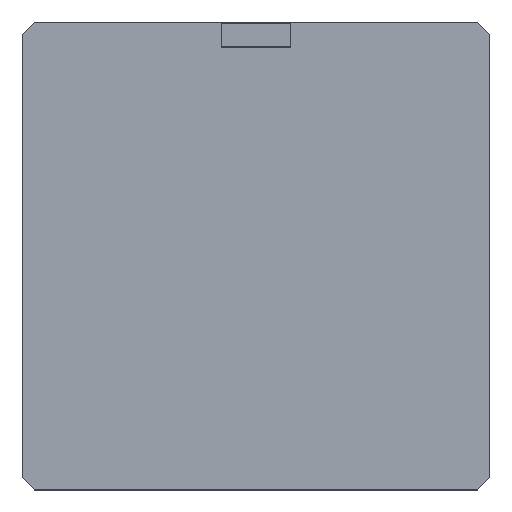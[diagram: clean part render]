
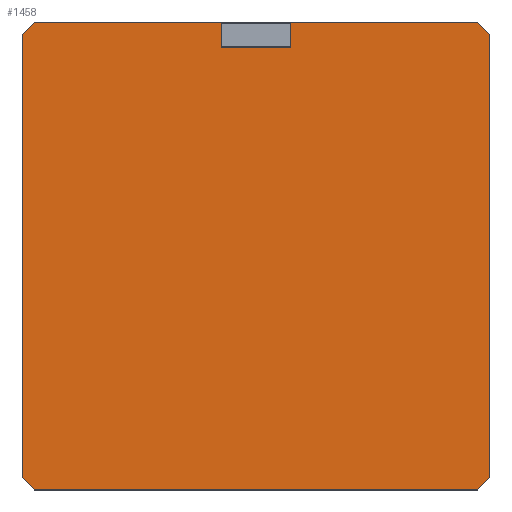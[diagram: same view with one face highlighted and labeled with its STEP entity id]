
A CAD part, top view. The second image highlights one B-rep face of the part: STEP entity #1458.
In plain terms, the highlighted planar face has unit normal (0, 0, 1).
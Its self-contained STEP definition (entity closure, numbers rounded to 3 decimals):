
#1458 = ADVANCED_FACE( '', ( #3329, #3330 ), #3331, .T. );
#3329 = FACE_BOUND( '', #5827, .T. );
#3330 = FACE_OUTER_BOUND( '', #5828, .T. );
#3331 = PLANE( '', #5829 );
#5827 = EDGE_LOOP( '', ( #10282, #10283, #10284, #10285 ) );
#5828 = EDGE_LOOP( '', ( #10286, #10287, #10288, #10289, #10290, #10291, #10292, #10293 ) );
#5829 = AXIS2_PLACEMENT_3D( '', #10294, #10295, #10296 );
#10282 = ORIENTED_EDGE( '', *, *, #15996, .F. );
#10283 = ORIENTED_EDGE( '', *, *, #15997, .T. );
#10284 = ORIENTED_EDGE( '', *, *, #15998, .T. );
#10285 = ORIENTED_EDGE( '', *, *, #15999, .T. );
#10286 = ORIENTED_EDGE( '', *, *, #16000, .T. );
#10287 = ORIENTED_EDGE( '', *, *, #16001, .T. );
#10288 = ORIENTED_EDGE( '', *, *, #16002, .T. );
#10289 = ORIENTED_EDGE( '', *, *, #15159, .T. );
#10290 = ORIENTED_EDGE( '', *, *, #15719, .T. );
#10291 = ORIENTED_EDGE( '', *, *, #16003, .T. );
#10292 = ORIENTED_EDGE( '', *, *, #15353, .T. );
#10293 = ORIENTED_EDGE( '', *, *, #15486, .T. );
#10294 = CARTESIAN_POINT( '', ( 0., 0., 6.7 ) );
#10295 = DIRECTION( '', ( 0., 0., 1. ) );
#10296 = DIRECTION( '', ( 1., 0., 0. ) );
#15159 = EDGE_CURVE( '', #18518, #18516, #18519, .T. );
#15353 = EDGE_CURVE( '', #18844, #18842, #18845, .T. );
#15486 = EDGE_CURVE( '', #18842, #19054, #19056, .T. );
#15719 = EDGE_CURVE( '', #18516, #19417, #19419, .T. );
#15996 = EDGE_CURVE( '', #19830, #19831, #19832, .T. );
#15997 = EDGE_CURVE( '', #19830, #19833, #19834, .T. );
#15998 = EDGE_CURVE( '', #19833, #19835, #19836, .T. );
#15999 = EDGE_CURVE( '', #19835, #19831, #19837, .T. );
#16000 = EDGE_CURVE( '', #19054, #19838, #19839, .T. );
#16001 = EDGE_CURVE( '', #19838, #19840, #19841, .T. );
#16002 = EDGE_CURVE( '', #19840, #18518, #19842, .T. );
#16003 = EDGE_CURVE( '', #19417, #18844, #19843, .T. );
#18516 = VERTEX_POINT( '', #23092 );
#18518 = VERTEX_POINT( '', #23095 );
#18519 = LINE( '', #23096, #23097 );
#18842 = VERTEX_POINT( '', #23592 );
#18844 = VERTEX_POINT( '', #23595 );
#18845 = LINE( '', #23596, #23597 );
#19054 = VERTEX_POINT( '', #23897 );
#19056 = LINE( '', #23900, #23901 );
#19417 = VERTEX_POINT( '', #24425 );
#19419 = LINE( '', #24428, #24429 );
#19830 = VERTEX_POINT( '', #25004 );
#19831 = VERTEX_POINT( '', #25005 );
#19832 = LINE( '', #25006, #25007 );
#19833 = VERTEX_POINT( '', #25008 );
#19834 = LINE( '', #25009, #25010 );
#19835 = VERTEX_POINT( '', #25011 );
#19836 = LINE( '', #25012, #25013 );
#19837 = LINE( '', #25014, #25015 );
#19838 = VERTEX_POINT( '', #25016 );
#19839 = LINE( '', #25017, #25018 );
#19840 = VERTEX_POINT( '', #25019 );
#19841 = LINE( '', #25020, #25021 );
#19842 = LINE( '', #25022, #25023 );
#19843 = LINE( '', #25024, #25025 );
#23092 = CARTESIAN_POINT( '', ( 126., -119.5, 6.7 ) );
#23095 = CARTESIAN_POINT( '', ( 119.5, -126., 6.7 ) );
#23096 = CARTESIAN_POINT( '', ( 119.5, -126., 6.7 ) );
#23097 = VECTOR( '', #27902, 1000. );
#23592 = CARTESIAN_POINT( '', ( -119.5, 126., 6.7 ) );
#23595 = CARTESIAN_POINT( '', ( 119.5, 126., 6.7 ) );
#23596 = CARTESIAN_POINT( '', ( 119.5, 126., 6.7 ) );
#23597 = VECTOR( '', #28096, 1000. );
#23897 = CARTESIAN_POINT( '', ( -126., 119.5, 6.7 ) );
#23900 = CARTESIAN_POINT( '', ( -119.5, 126., 6.7 ) );
#23901 = VECTOR( '', #28234, 1000. );
#24425 = CARTESIAN_POINT( '', ( 126., 119.5, 6.7 ) );
#24428 = CARTESIAN_POINT( '', ( 126., -119.5, 6.7 ) );
#24429 = VECTOR( '', #28495, 1000. );
#25004 = CARTESIAN_POINT( '', ( 18.683, 112.1, 6.7 ) );
#25005 = CARTESIAN_POINT( '', ( 18.683, 125.9, 6.7 ) );
#25006 = CARTESIAN_POINT( '', ( 18.683, 0., 6.7 ) );
#25007 = VECTOR( '', #28795, 1000. );
#25008 = CARTESIAN_POINT( '', ( -18.683, 112.1, 6.7 ) );
#25009 = CARTESIAN_POINT( '', ( 0., 112.1, 6.7 ) );
#25010 = VECTOR( '', #28796, 1000. );
#25011 = CARTESIAN_POINT( '', ( -18.683, 125.9, 6.7 ) );
#25012 = CARTESIAN_POINT( '', ( -18.683, 0., 6.7 ) );
#25013 = VECTOR( '', #28797, 1000. );
#25014 = CARTESIAN_POINT( '', ( 0., 125.9, 6.7 ) );
#25015 = VECTOR( '', #28798, 1000. );
#25016 = CARTESIAN_POINT( '', ( -126., -119.5, 6.7 ) );
#25017 = CARTESIAN_POINT( '', ( -126., 119.5, 6.7 ) );
#25018 = VECTOR( '', #28799, 1000. );
#25019 = CARTESIAN_POINT( '', ( -119.5, -126., 6.7 ) );
#25020 = CARTESIAN_POINT( '', ( -126., -119.5, 6.7 ) );
#25021 = VECTOR( '', #28800, 1000. );
#25022 = CARTESIAN_POINT( '', ( -119.5, -126., 6.7 ) );
#25023 = VECTOR( '', #28801, 1000. );
#25024 = CARTESIAN_POINT( '', ( 126., 119.5, 6.7 ) );
#25025 = VECTOR( '', #28802, 1000. );
#27902 = DIRECTION( '', ( 0.707, 0.707, 0. ) );
#28096 = DIRECTION( '', ( -1., 0., 0. ) );
#28234 = DIRECTION( '', ( -0.707, -0.707, 0. ) );
#28495 = DIRECTION( '', ( 0., 1., 0. ) );
#28795 = DIRECTION( '', ( 0., 1., 0. ) );
#28796 = DIRECTION( '', ( -1., 0., 0. ) );
#28797 = DIRECTION( '', ( 0., 1., 0. ) );
#28798 = DIRECTION( '', ( 1., 0., 0. ) );
#28799 = DIRECTION( '', ( 0., -1., 0. ) );
#28800 = DIRECTION( '', ( 0.707, -0.707, 0. ) );
#28801 = DIRECTION( '', ( 1., 0., 0. ) );
#28802 = DIRECTION( '', ( -0.707, 0.707, 0. ) );
